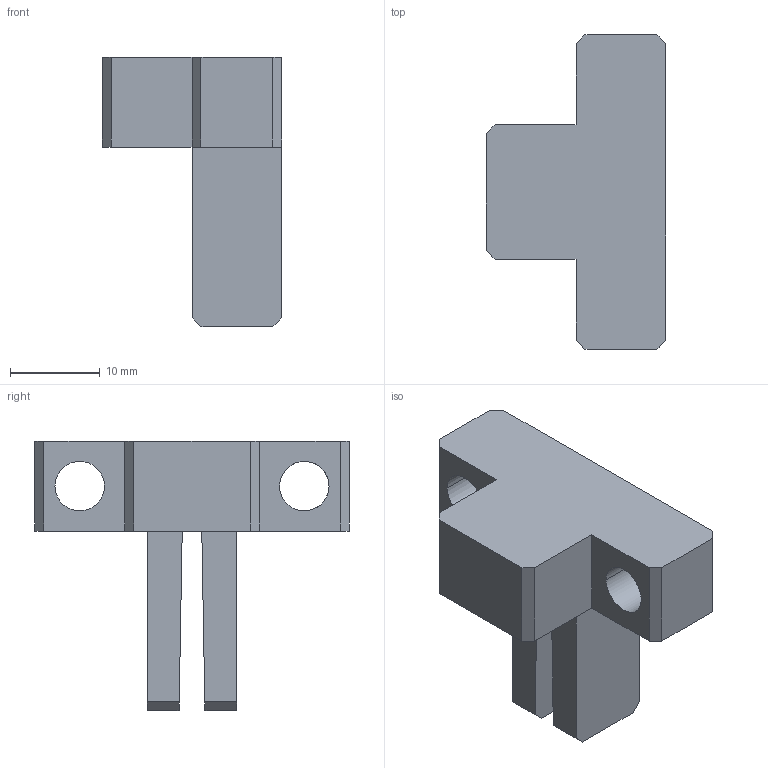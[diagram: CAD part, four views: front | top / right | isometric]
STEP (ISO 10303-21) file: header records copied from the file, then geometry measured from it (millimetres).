
FILE_DESCRIPTION(('CATIA V5 STEP Exchange'),'2;1');
FILE_NAME('D:\姚明阳\1、工装图纸\AGZ122\AGZ122.00_V2\AGZ122.05_V2.stp','2024-12-11T11:34:45+00:00',('none'),('none'),'CATIA Version 5 Release 20 GA (IN-10)','CATIA V5 STEP AP203','none');
FILE_SCHEMA(('CONFIG_CONTROL_DESIGN'));
Length unit declared in the file: millimetre
Products named in the file (1): AGZ122.05_V2
Bounding box: 20 x 35 x 30 mm (x, y, z)
Volume: 5981.4 mm3; surface area: 3388.9 mm2
Topology: 1 solids, 1 shells, 32 faces, 90 edges, 60 vertices
Faces by surface type: plane 28, cylinder 4
Entity records: 1045 total; most frequent: CARTESIAN_POINT 199, ORIENTED_EDGE 180, DIRECTION 137, EDGE_CURVE 90, VECTOR 77, LINE 77, VERTEX_POINT 60, EDGE_LOOP 36
